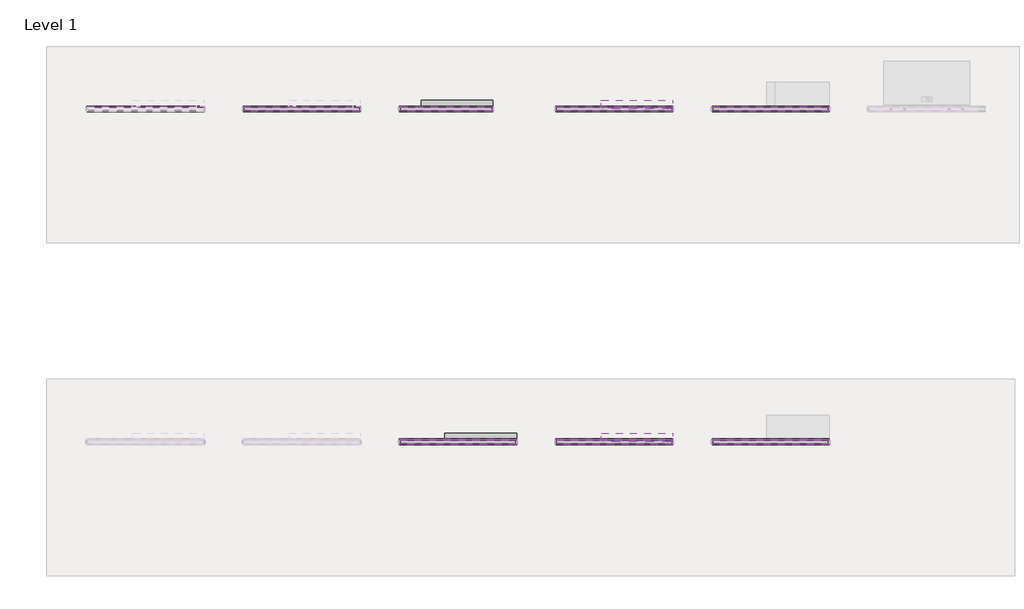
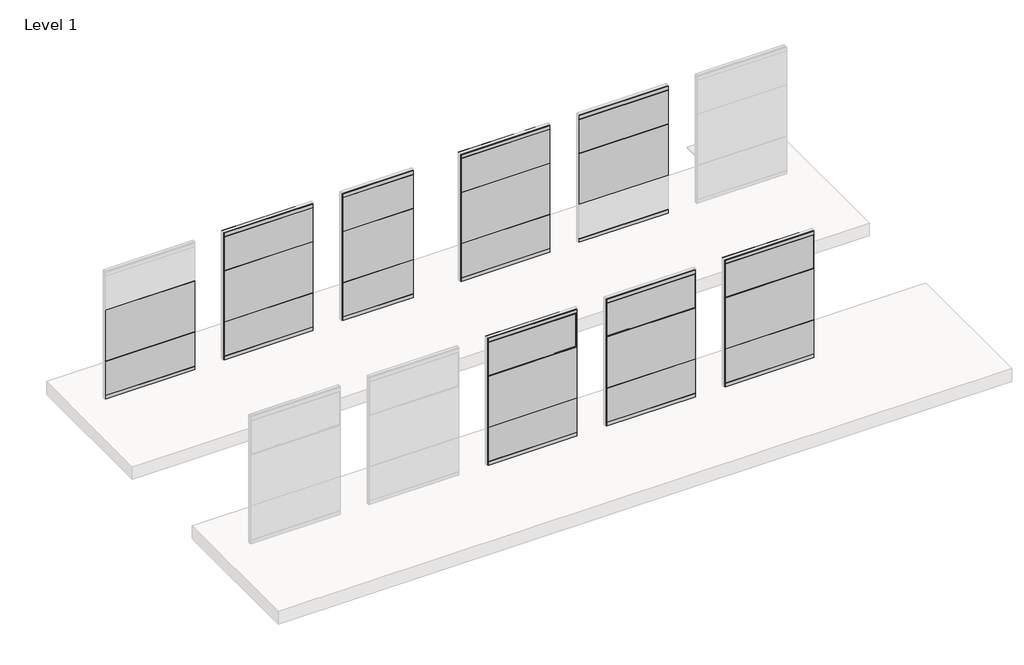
# One storey, part 8 of 13: 109 proxies, 4 furniture elements.
"""IFC4 building model written with IfcOpenShell, lengths in millimetres."""

from ifc_helpers import new_model, si_unit, origin, place, context, project, spatial, transform, mapped, element, save
from components import fascia_teknion_ceiling_and_base_ffb1_3cc7ad6c, fascia_teknion_ceiling_and_base_ffb1_00c84851, fascia_teknion_ceiling_and_base_ffb1_18eda79c, fascia_teknion_ceiling_and_base_ffb1_afe21305, frame_teknion_horizontal_rail_fkk_9ef1d2c1, frame_teknion_horizontal_rail_fkk_86cbbdfc, glass_fascia_e55c546c, level_i_0ecc00cd, level_i_4d32b42f, level_i_45b542d7, level_i_5a75796b, level_i_bottom_994d76d2, level_i_top_b0ef9d30, level_ii_5d745991, level_ii_fc3b3d38, level_ii_4f3a5f4c, level_ii_0c7391c9, level_ii_bottom_46093f10, level_iii_d1689ffa, level_iii_fe696794, level_iii_1ffc0a55, level_iii_bffd5232, aluminum_shelf_9e608764

model = new_model("IFC4")

# Units and contexts
model_context = context("Model", 3, world=origin())
ifc_project = project(units=[si_unit("LENGTHUNIT", "METRE", prefix="MILLI")], contexts=[model_context])

# Site, building, storey
site = spatial("IfcSite", under=ifc_project)
building = spatial("IfcBuilding", under=site)
storey = spatial("IfcBuildingStorey", under=building, Name="Level 1", Elevation=0.0)

# Proxies
placement = place(None, origin())
fascia_teknion_ceiling_and_base_ffb1_shape = fascia_teknion_ceiling_and_base_ffb1_3cc7ad6c(model_context)
element("IfcBuildingElementProxy", 1, Name="Fascia-Teknion-Ceiling_and_Base : FFB1", ObjectType="Fascia-Teknion-Ceiling_and_Base : FFB1", at=placement, inside=storey, context=model_context, shape_type="MappedRepresentation", body=[
    mapped(fascia_teknion_ceiling_and_base_ffb1_shape, transform((-13595.3661615, 22138.2449796, 15.875), x_axis=(1.0, 0.0, 0.0), y_axis=(0.0, 1.0, 0.0), z_axis=(0.0, 0.0, 1.0))),
])
fascia_teknion_ceiling_and_base_ffb1_2_shape = fascia_teknion_ceiling_and_base_ffb1_00c84851(model_context)
element("IfcBuildingElementProxy", 2, Name="Fascia-Teknion-Ceiling_and_Base : FFB1", ObjectType="Fascia-Teknion-Ceiling_and_Base : FFB1", at=placement, inside=storey, context=model_context, shape_type="MappedRepresentation", body=[
    mapped(fascia_teknion_ceiling_and_base_ffb1_2_shape, transform((-13595.3661615, 22076.2689796, 15.875), x_axis=(1.0, 0.0, 0.0), y_axis=(0.0, 1.0, 0.0), z_axis=(0.0, 0.0, 1.0))),
])
fascia_teknion_ceiling_and_base_ffb1_3_shape = fascia_teknion_ceiling_and_base_ffb1_18eda79c(model_context)
element("IfcBuildingElementProxy", 3, Name="Fascia-Teknion-Ceiling_and_Base : FFB1", ObjectType="Fascia-Teknion-Ceiling_and_Base : FFB1", at=placement, inside=storey, context=model_context, shape_type="MappedRepresentation", body=[
    mapped(fascia_teknion_ceiling_and_base_ffb1_3_shape, transform((-13392.1661615, 16394.5429796, 15.875), x_axis=(1.0, 0.0, 0.0), y_axis=(0.0, 1.0, 0.0), z_axis=(0.0, 0.0, 1.0))),
])
element("IfcBuildingElementProxy", 4, Name="Fascia-Teknion-Ceiling_and_Base : FFB1", ObjectType="Fascia-Teknion-Ceiling_and_Base : FFB1", at=placement, inside=storey, context=model_context, shape_type="MappedRepresentation", body=[
    mapped(fascia_teknion_ceiling_and_base_ffb1_3_shape, transform((-10725.1661615, 16394.5429796, 15.875), x_axis=(1.0, 0.0, 0.0), y_axis=(0.0, 1.0, 0.0), z_axis=(0.0, 0.0, 1.0))),
])
element("IfcBuildingElementProxy", 5, Name="Fascia-Teknion-Ceiling_and_Base : FFB1", ObjectType="Fascia-Teknion-Ceiling_and_Base : FFB1", at=placement, inside=storey, context=model_context, shape_type="MappedRepresentation", body=[
    mapped(fascia_teknion_ceiling_and_base_ffb1_3_shape, transform((-8058.1661615, 16394.5429796, 15.875), x_axis=(1.0, 0.0, 0.0), y_axis=(0.0, 1.0, 0.0), z_axis=(0.0, 0.0, 1.0))),
])
element("IfcBuildingElementProxy", 6, Name="Fascia-Teknion-Ceiling_and_Base : FFB1", ObjectType="Fascia-Teknion-Ceiling_and_Base : FFB1", at=placement, inside=storey, context=model_context, shape_type="MappedRepresentation", body=[
    mapped(fascia_teknion_ceiling_and_base_ffb1_3_shape, transform((-18726.1661615, 22076.2689796, 15.875), x_axis=(1.0, 0.0, 0.0), y_axis=(0.0, 1.0, 0.0), z_axis=(0.0, 0.0, 1.0))),
])
element("IfcBuildingElementProxy", 7, Name="Fascia-Teknion-Ceiling_and_Base : FFB1", ObjectType="Fascia-Teknion-Ceiling_and_Base : FFB1", at=placement, inside=storey, context=model_context, shape_type="MappedRepresentation", body=[
    mapped(fascia_teknion_ceiling_and_base_ffb1_3_shape, transform((-16059.1661615, 22076.2689796, 15.875), x_axis=(1.0, 0.0, 0.0), y_axis=(0.0, 1.0, 0.0), z_axis=(0.0, 0.0, 1.0))),
])
element("IfcBuildingElementProxy", 8, Name="Fascia-Teknion-Ceiling_and_Base : FFB1", ObjectType="Fascia-Teknion-Ceiling_and_Base : FFB1", at=placement, inside=storey, context=model_context, shape_type="MappedRepresentation", body=[
    mapped(fascia_teknion_ceiling_and_base_ffb1_3_shape, transform((-10725.1661615, 22076.2689796, 15.875), x_axis=(1.0, 0.0, 0.0), y_axis=(0.0, 1.0, 0.0), z_axis=(0.0, 0.0, 1.0))),
])
element("IfcBuildingElementProxy", 9, Name="Fascia-Teknion-Ceiling_and_Base : FFB1", ObjectType="Fascia-Teknion-Ceiling_and_Base : FFB1", at=placement, inside=storey, context=model_context, shape_type="MappedRepresentation", body=[
    mapped(fascia_teknion_ceiling_and_base_ffb1_3_shape, transform((-8058.1661615, 22076.2689796, 15.875), x_axis=(1.0, 0.0, 0.0), y_axis=(0.0, 1.0, 0.0), z_axis=(0.0, 0.0, 1.0))),
])
fascia_teknion_ceiling_and_base_ffb1_4_shape = fascia_teknion_ceiling_and_base_ffb1_afe21305(model_context)
element("IfcBuildingElementProxy", 10, Name="Fascia-Teknion-Ceiling_and_Base : FFB1", ObjectType="Fascia-Teknion-Ceiling_and_Base : FFB1", at=placement, inside=storey, context=model_context, shape_type="MappedRepresentation", body=[
    mapped(fascia_teknion_ceiling_and_base_ffb1_4_shape, transform((-13392.1661615, 16456.5189796, 15.875), x_axis=(1.0, 0.0, 0.0), y_axis=(0.0, 1.0, 0.0), z_axis=(0.0, 0.0, 1.0))),
])
element("IfcBuildingElementProxy", 11, Name="Fascia-Teknion-Ceiling_and_Base : FFB1", ObjectType="Fascia-Teknion-Ceiling_and_Base : FFB1", at=placement, inside=storey, context=model_context, shape_type="MappedRepresentation", body=[
    mapped(fascia_teknion_ceiling_and_base_ffb1_4_shape, transform((-10725.1661615, 16456.5189796, 15.875), x_axis=(1.0, 0.0, 0.0), y_axis=(0.0, 1.0, 0.0), z_axis=(0.0, 0.0, 1.0))),
])
element("IfcBuildingElementProxy", 12, Name="Fascia-Teknion-Ceiling_and_Base : FFB1", ObjectType="Fascia-Teknion-Ceiling_and_Base : FFB1", at=placement, inside=storey, context=model_context, shape_type="MappedRepresentation", body=[
    mapped(fascia_teknion_ceiling_and_base_ffb1_4_shape, transform((-8058.1661615, 16456.5189796, 15.875), x_axis=(1.0, 0.0, 0.0), y_axis=(0.0, 1.0, 0.0), z_axis=(0.0, 0.0, 1.0))),
])
element("IfcBuildingElementProxy", 13, Name="Fascia-Teknion-Ceiling_and_Base : FFB1", ObjectType="Fascia-Teknion-Ceiling_and_Base : FFB1", at=placement, inside=storey, context=model_context, shape_type="MappedRepresentation", body=[
    mapped(fascia_teknion_ceiling_and_base_ffb1_4_shape, transform((-18726.1661615, 22138.2449796, 15.875), x_axis=(1.0, 0.0, 0.0), y_axis=(0.0, 1.0, 0.0), z_axis=(0.0, 0.0, 1.0))),
])
element("IfcBuildingElementProxy", 14, Name="Fascia-Teknion-Ceiling_and_Base : FFB1", ObjectType="Fascia-Teknion-Ceiling_and_Base : FFB1", at=placement, inside=storey, context=model_context, shape_type="MappedRepresentation", body=[
    mapped(fascia_teknion_ceiling_and_base_ffb1_4_shape, transform((-16059.1661615, 22138.2449796, 15.875), x_axis=(1.0, 0.0, 0.0), y_axis=(0.0, 1.0, 0.0), z_axis=(0.0, 0.0, 1.0))),
])
element("IfcBuildingElementProxy", 15, Name="Fascia-Teknion-Ceiling_and_Base : FFB1", ObjectType="Fascia-Teknion-Ceiling_and_Base : FFB1", at=placement, inside=storey, context=model_context, shape_type="MappedRepresentation", body=[
    mapped(fascia_teknion_ceiling_and_base_ffb1_4_shape, transform((-10725.1661615, 22138.2449796, 15.875), x_axis=(1.0, 0.0, 0.0), y_axis=(0.0, 1.0, 0.0), z_axis=(0.0, 0.0, 1.0))),
])
element("IfcBuildingElementProxy", 16, Name="Fascia-Teknion-Ceiling_and_Base : FFB1", ObjectType="Fascia-Teknion-Ceiling_and_Base : FFB1", at=placement, inside=storey, context=model_context, shape_type="MappedRepresentation", body=[
    mapped(fascia_teknion_ceiling_and_base_ffb1_4_shape, transform((-8058.1661615, 22138.2449796, 15.875), x_axis=(1.0, 0.0, 0.0), y_axis=(0.0, 1.0, 0.0), z_axis=(0.0, 0.0, 1.0))),
])
element("IfcBuildingElementProxy", 17, Name="Fascia-Teknion-Ceiling_and_Base : FFC", ObjectType="Fascia-Teknion-Ceiling_and_Base : FFC", at=placement, inside=storey, context=model_context, shape_type="MappedRepresentation", body=[
    mapped(fascia_teknion_ceiling_and_base_ffb1_shape, transform((-13595.3661615, 22138.2449796, 2950.845), x_axis=(1.0, 0.0, 0.0), y_axis=(0.0, 1.0, 0.0), z_axis=(0.0, 0.0, 1.0))),
])
element("IfcBuildingElementProxy", 18, Name="Fascia-Teknion-Ceiling_and_Base : FFC", ObjectType="Fascia-Teknion-Ceiling_and_Base : FFC", at=placement, inside=storey, context=model_context, shape_type="MappedRepresentation", body=[
    mapped(fascia_teknion_ceiling_and_base_ffb1_2_shape, transform((-13595.3661615, 22076.2689796, 2950.845), x_axis=(1.0, 0.0, 0.0), y_axis=(0.0, 1.0, 0.0), z_axis=(0.0, 0.0, 1.0))),
])
element("IfcBuildingElementProxy", 19, Name="Fascia-Teknion-Ceiling_and_Base : FFC", ObjectType="Fascia-Teknion-Ceiling_and_Base : FFC", at=placement, inside=storey, context=model_context, shape_type="MappedRepresentation", body=[
    mapped(fascia_teknion_ceiling_and_base_ffb1_4_shape, transform((-16059.1661615, 22138.2449796, 2950.845), x_axis=(1.0, 0.0, 0.0), y_axis=(0.0, 1.0, 0.0), z_axis=(0.0, 0.0, 1.0))),
])
element("IfcBuildingElementProxy", 20, Name="Fascia-Teknion-Ceiling_and_Base : FFC", ObjectType="Fascia-Teknion-Ceiling_and_Base : FFC", at=placement, inside=storey, context=model_context, shape_type="MappedRepresentation", body=[
    mapped(fascia_teknion_ceiling_and_base_ffb1_4_shape, transform((-10725.1661615, 22138.2449796, 2950.845), x_axis=(1.0, 0.0, 0.0), y_axis=(0.0, 1.0, 0.0), z_axis=(0.0, 0.0, 1.0))),
])
element("IfcBuildingElementProxy", 21, Name="Fascia-Teknion-Ceiling_and_Base : FFC", ObjectType="Fascia-Teknion-Ceiling_and_Base : FFC", at=placement, inside=storey, context=model_context, shape_type="MappedRepresentation", body=[
    mapped(fascia_teknion_ceiling_and_base_ffb1_4_shape, transform((-8058.1661615, 22138.2449796, 2950.845), x_axis=(1.0, 0.0, 0.0), y_axis=(0.0, 1.0, 0.0), z_axis=(0.0, 0.0, 1.0))),
])
element("IfcBuildingElementProxy", 22, Name="Fascia-Teknion-Ceiling_and_Base : FFC", ObjectType="Fascia-Teknion-Ceiling_and_Base : FFC", at=placement, inside=storey, context=model_context, shape_type="MappedRepresentation", body=[
    mapped(fascia_teknion_ceiling_and_base_ffb1_4_shape, transform((-13392.1661615, 16456.5189796, 2950.845), x_axis=(1.0, 0.0, 0.0), y_axis=(0.0, 1.0, 0.0), z_axis=(0.0, 0.0, 1.0))),
])
element("IfcBuildingElementProxy", 23, Name="Fascia-Teknion-Ceiling_and_Base : FFC", ObjectType="Fascia-Teknion-Ceiling_and_Base : FFC", at=placement, inside=storey, context=model_context, shape_type="MappedRepresentation", body=[
    mapped(fascia_teknion_ceiling_and_base_ffb1_4_shape, transform((-10725.1661615, 16456.5189796, 2950.845), x_axis=(1.0, 0.0, 0.0), y_axis=(0.0, 1.0, 0.0), z_axis=(0.0, 0.0, 1.0))),
])
element("IfcBuildingElementProxy", 24, Name="Fascia-Teknion-Ceiling_and_Base : FFC", ObjectType="Fascia-Teknion-Ceiling_and_Base : FFC", at=placement, inside=storey, context=model_context, shape_type="MappedRepresentation", body=[
    mapped(fascia_teknion_ceiling_and_base_ffb1_4_shape, transform((-8058.1661615, 16456.5189796, 2950.845), x_axis=(1.0, 0.0, 0.0), y_axis=(0.0, 1.0, 0.0), z_axis=(0.0, 0.0, 1.0))),
])
element("IfcBuildingElementProxy", 25, Name="Fascia-Teknion-Ceiling_and_Base : FFC", ObjectType="Fascia-Teknion-Ceiling_and_Base : FFC", at=placement, inside=storey, context=model_context, shape_type="MappedRepresentation", body=[
    mapped(fascia_teknion_ceiling_and_base_ffb1_3_shape, transform((-16059.1661615, 22076.2689796, 2950.845), x_axis=(1.0, 0.0, 0.0), y_axis=(0.0, 1.0, 0.0), z_axis=(0.0, 0.0, 1.0))),
])
element("IfcBuildingElementProxy", 26, Name="Fascia-Teknion-Ceiling_and_Base : FFC", ObjectType="Fascia-Teknion-Ceiling_and_Base : FFC", at=placement, inside=storey, context=model_context, shape_type="MappedRepresentation", body=[
    mapped(fascia_teknion_ceiling_and_base_ffb1_3_shape, transform((-10725.1661615, 22076.2689796, 2950.845), x_axis=(1.0, 0.0, 0.0), y_axis=(0.0, 1.0, 0.0), z_axis=(0.0, 0.0, 1.0))),
])
element("IfcBuildingElementProxy", 27, Name="Fascia-Teknion-Ceiling_and_Base : FFC", ObjectType="Fascia-Teknion-Ceiling_and_Base : FFC", at=placement, inside=storey, context=model_context, shape_type="MappedRepresentation", body=[
    mapped(fascia_teknion_ceiling_and_base_ffb1_3_shape, transform((-8058.1661615, 22076.2689796, 2950.845), x_axis=(1.0, 0.0, 0.0), y_axis=(0.0, 1.0, 0.0), z_axis=(0.0, 0.0, 1.0))),
])
element("IfcBuildingElementProxy", 28, Name="Fascia-Teknion-Ceiling_and_Base : FFC", ObjectType="Fascia-Teknion-Ceiling_and_Base : FFC", at=placement, inside=storey, context=model_context, shape_type="MappedRepresentation", body=[
    mapped(fascia_teknion_ceiling_and_base_ffb1_3_shape, transform((-13392.1661615, 16394.5429796, 2950.845), x_axis=(1.0, 0.0, 0.0), y_axis=(0.0, 1.0, 0.0), z_axis=(0.0, 0.0, 1.0))),
])
element("IfcBuildingElementProxy", 29, Name="Fascia-Teknion-Ceiling_and_Base : FFC", ObjectType="Fascia-Teknion-Ceiling_and_Base : FFC", at=placement, inside=storey, context=model_context, shape_type="MappedRepresentation", body=[
    mapped(fascia_teknion_ceiling_and_base_ffb1_3_shape, transform((-10725.1661615, 16394.5429796, 2950.845), x_axis=(1.0, 0.0, 0.0), y_axis=(0.0, 1.0, 0.0), z_axis=(0.0, 0.0, 1.0))),
])
element("IfcBuildingElementProxy", 30, Name="Fascia-Teknion-Ceiling_and_Base : FFC", ObjectType="Fascia-Teknion-Ceiling_and_Base : FFC", at=placement, inside=storey, context=model_context, shape_type="MappedRepresentation", body=[
    mapped(fascia_teknion_ceiling_and_base_ffb1_3_shape, transform((-8058.1661615, 16394.5429796, 2950.845), x_axis=(1.0, 0.0, 0.0), y_axis=(0.0, 1.0, 0.0), z_axis=(0.0, 0.0, 1.0))),
])
frame_teknion_horizontal_rail_fkk_shape = frame_teknion_horizontal_rail_fkk_9ef1d2c1(model_context)
element("IfcBuildingElementProxy", 31, Name="Frame-Teknion-Horizontal_Rail : FKK", ObjectType="Frame-Teknion-Horizontal_Rail : FKK", at=placement, inside=storey, context=model_context, shape_type="MappedRepresentation", body=[
    mapped(frame_teknion_horizontal_rail_fkk_shape, transform((-13595.3661615, 22107.2569796, 100.4514438), x_axis=(1.0, 0.0, 0.0), y_axis=(0.0, 1.0, 0.0), z_axis=(0.0, 0.0, 1.0))),
])
element("IfcBuildingElementProxy", 32, Name="Frame-Teknion-Horizontal_Rail : FKK", ObjectType="Frame-Teknion-Horizontal_Rail : FKK", at=placement, inside=storey, context=model_context, shape_type="MappedRepresentation", body=[
    mapped(frame_teknion_horizontal_rail_fkk_shape, transform((-13595.3661615, 22107.2569796, 2947.5374437), x_axis=(1.0, 0.0, 0.0), y_axis=(0.0, 1.0, 0.0), z_axis=(0.0, 0.0, 1.0))),
])
frame_teknion_horizontal_rail_fkk_2_shape = frame_teknion_horizontal_rail_fkk_86cbbdfc(model_context)
element("IfcBuildingElementProxy", 33, Name="Frame-Teknion-Horizontal_Rail : FKK", ObjectType="Frame-Teknion-Horizontal_Rail : FKK", at=placement, inside=storey, context=model_context, shape_type="MappedRepresentation", body=[
    mapped(frame_teknion_horizontal_rail_fkk_2_shape, transform((-16059.1661615, 22107.2569796, 100.4514438), x_axis=(1.0, 0.0, 0.0), y_axis=(0.0, 1.0, 0.0), z_axis=(0.0, 0.0, 1.0))),
])
element("IfcBuildingElementProxy", 34, Name="Frame-Teknion-Horizontal_Rail : FKK", ObjectType="Frame-Teknion-Horizontal_Rail : FKK", at=placement, inside=storey, context=model_context, shape_type="MappedRepresentation", body=[
    mapped(frame_teknion_horizontal_rail_fkk_2_shape, transform((-16059.1661615, 22107.2569796, 2947.5374437), x_axis=(1.0, 0.0, 0.0), y_axis=(0.0, 1.0, 0.0), z_axis=(0.0, 0.0, 1.0))),
])
element("IfcBuildingElementProxy", 35, Name="Frame-Teknion-Horizontal_Rail : FKK", ObjectType="Frame-Teknion-Horizontal_Rail : FKK", at=placement, inside=storey, context=model_context, shape_type="MappedRepresentation", body=[
    mapped(frame_teknion_horizontal_rail_fkk_2_shape, transform((-10725.1661615, 22107.2569796, 100.4514438), x_axis=(1.0, 0.0, 0.0), y_axis=(0.0, 1.0, 0.0), z_axis=(0.0, 0.0, 1.0))),
])
element("IfcBuildingElementProxy", 36, Name="Frame-Teknion-Horizontal_Rail : FKK", ObjectType="Frame-Teknion-Horizontal_Rail : FKK", at=placement, inside=storey, context=model_context, shape_type="MappedRepresentation", body=[
    mapped(frame_teknion_horizontal_rail_fkk_2_shape, transform((-10725.1661615, 22107.2569796, 2947.5374437), x_axis=(1.0, 0.0, 0.0), y_axis=(0.0, 1.0, 0.0), z_axis=(0.0, 0.0, 1.0))),
])
element("IfcBuildingElementProxy", 37, Name="Frame-Teknion-Horizontal_Rail : FKK", ObjectType="Frame-Teknion-Horizontal_Rail : FKK", at=placement, inside=storey, context=model_context, shape_type="MappedRepresentation", body=[
    mapped(frame_teknion_horizontal_rail_fkk_2_shape, transform((-8058.1661615, 22107.2569796, 100.4514438), x_axis=(1.0, 0.0, 0.0), y_axis=(0.0, 1.0, 0.0), z_axis=(0.0, 0.0, 1.0))),
])
element("IfcBuildingElementProxy", 38, Name="Frame-Teknion-Horizontal_Rail : FKK", ObjectType="Frame-Teknion-Horizontal_Rail : FKK", at=placement, inside=storey, context=model_context, shape_type="MappedRepresentation", body=[
    mapped(frame_teknion_horizontal_rail_fkk_2_shape, transform((-8058.1661615, 22107.2569796, 2947.5374437), x_axis=(1.0, 0.0, 0.0), y_axis=(0.0, 1.0, 0.0), z_axis=(0.0, 0.0, 1.0))),
])
element("IfcBuildingElementProxy", 39, Name="Frame-Teknion-Horizontal_Rail : FKK", ObjectType="Frame-Teknion-Horizontal_Rail : FKK", at=placement, inside=storey, context=model_context, shape_type="MappedRepresentation", body=[
    mapped(frame_teknion_horizontal_rail_fkk_2_shape, transform((-13392.1661615, 16425.5309796, 100.4514438), x_axis=(1.0, 0.0, 0.0), y_axis=(0.0, 1.0, 0.0), z_axis=(0.0, 0.0, 1.0))),
])
element("IfcBuildingElementProxy", 40, Name="Frame-Teknion-Horizontal_Rail : FKK", ObjectType="Frame-Teknion-Horizontal_Rail : FKK", at=placement, inside=storey, context=model_context, shape_type="MappedRepresentation", body=[
    mapped(frame_teknion_horizontal_rail_fkk_2_shape, transform((-13392.1661615, 16425.5309796, 2947.5374437), x_axis=(1.0, 0.0, 0.0), y_axis=(0.0, 1.0, 0.0), z_axis=(0.0, 0.0, 1.0))),
])
element("IfcBuildingElementProxy", 41, Name="Frame-Teknion-Horizontal_Rail : FKK", ObjectType="Frame-Teknion-Horizontal_Rail : FKK", at=placement, inside=storey, context=model_context, shape_type="MappedRepresentation", body=[
    mapped(frame_teknion_horizontal_rail_fkk_2_shape, transform((-10725.1661615, 16425.5309796, 100.4514438), x_axis=(1.0, 0.0, 0.0), y_axis=(0.0, 1.0, 0.0), z_axis=(0.0, 0.0, 1.0))),
])
element("IfcBuildingElementProxy", 42, Name="Frame-Teknion-Horizontal_Rail : FKK", ObjectType="Frame-Teknion-Horizontal_Rail : FKK", at=placement, inside=storey, context=model_context, shape_type="MappedRepresentation", body=[
    mapped(frame_teknion_horizontal_rail_fkk_2_shape, transform((-10725.1661615, 16425.5309796, 2947.5374437), x_axis=(1.0, 0.0, 0.0), y_axis=(0.0, 1.0, 0.0), z_axis=(0.0, 0.0, 1.0))),
])
element("IfcBuildingElementProxy", 43, Name="Frame-Teknion-Horizontal_Rail : FKK", ObjectType="Frame-Teknion-Horizontal_Rail : FKK", at=placement, inside=storey, context=model_context, shape_type="MappedRepresentation", body=[
    mapped(frame_teknion_horizontal_rail_fkk_2_shape, transform((-8058.1661615, 16425.5309796, 100.4514438), x_axis=(1.0, 0.0, 0.0), y_axis=(0.0, 1.0, 0.0), z_axis=(0.0, 0.0, 1.0))),
])
element("IfcBuildingElementProxy", 44, Name="Frame-Teknion-Horizontal_Rail : FKK", ObjectType="Frame-Teknion-Horizontal_Rail : FKK", at=placement, inside=storey, context=model_context, shape_type="MappedRepresentation", body=[
    mapped(frame_teknion_horizontal_rail_fkk_2_shape, transform((-8058.1661615, 16425.5309796, 2947.5374437), x_axis=(1.0, 0.0, 0.0), y_axis=(0.0, 1.0, 0.0), z_axis=(0.0, 0.0, 1.0))),
])
element("IfcBuildingElementProxy", 45, Name="Frame-Teknion-Landscape_Horizontal_Rail : FLKH", ObjectType="Frame-Teknion-Landscape_Horizontal_Rail : FLKH", at=placement, inside=storey, context=model_context, shape_type="MappedRepresentation", body=[
    mapped(frame_teknion_horizontal_rail_fkk_shape, transform((-13595.3661615, 22107.2569796, 917.575), x_axis=(1.0, 0.0, 0.0), y_axis=(0.0, 1.0, 0.0), z_axis=(0.0, 0.0, 1.0))),
])
element("IfcBuildingElementProxy", 46, Name="Frame-Teknion-Landscape_Horizontal_Rail : FLKH", ObjectType="Frame-Teknion-Landscape_Horizontal_Rail : FLKH", at=placement, inside=storey, context=model_context, shape_type="MappedRepresentation", body=[
    mapped(frame_teknion_horizontal_rail_fkk_shape, transform((-13595.3661615, 22107.2569796, 2136.775), x_axis=(1.0, 0.0, 0.0), y_axis=(0.0, 1.0, 0.0), z_axis=(0.0, 0.0, 1.0))),
])
element("IfcBuildingElementProxy", 47, Name="Frame-Teknion-Landscape_Horizontal_Rail : FLKH", ObjectType="Frame-Teknion-Landscape_Horizontal_Rail : FLKH", at=placement, inside=storey, context=model_context, shape_type="MappedRepresentation", body=[
    mapped(frame_teknion_horizontal_rail_fkk_2_shape, transform((-16059.1661615, 22107.2569796, 917.575), x_axis=(1.0, 0.0, 0.0), y_axis=(0.0, 1.0, 0.0), z_axis=(0.0, 0.0, 1.0))),
])
element("IfcBuildingElementProxy", 48, Name="Frame-Teknion-Landscape_Horizontal_Rail : FLKH", ObjectType="Frame-Teknion-Landscape_Horizontal_Rail : FLKH", at=placement, inside=storey, context=model_context, shape_type="MappedRepresentation", body=[
    mapped(frame_teknion_horizontal_rail_fkk_2_shape, transform((-16059.1661615, 22107.2569796, 2136.775), x_axis=(1.0, 0.0, 0.0), y_axis=(0.0, 1.0, 0.0), z_axis=(0.0, 0.0, 1.0))),
])
element("IfcBuildingElementProxy", 49, Name="Frame-Teknion-Landscape_Horizontal_Rail : FLKH", ObjectType="Frame-Teknion-Landscape_Horizontal_Rail : FLKH", at=placement, inside=storey, context=model_context, shape_type="MappedRepresentation", body=[
    mapped(frame_teknion_horizontal_rail_fkk_2_shape, transform((-10725.1661615, 22107.2569796, 917.575), x_axis=(1.0, 0.0, 0.0), y_axis=(0.0, 1.0, 0.0), z_axis=(0.0, 0.0, 1.0))),
])
element("IfcBuildingElementProxy", 50, Name="Frame-Teknion-Landscape_Horizontal_Rail : FLKH", ObjectType="Frame-Teknion-Landscape_Horizontal_Rail : FLKH", at=placement, inside=storey, context=model_context, shape_type="MappedRepresentation", body=[
    mapped(frame_teknion_horizontal_rail_fkk_2_shape, transform((-10725.1661615, 22107.2569796, 2136.775), x_axis=(1.0, 0.0, 0.0), y_axis=(0.0, 1.0, 0.0), z_axis=(0.0, 0.0, 1.0))),
])
element("IfcBuildingElementProxy", 51, Name="Frame-Teknion-Landscape_Horizontal_Rail : FLKH", ObjectType="Frame-Teknion-Landscape_Horizontal_Rail : FLKH", at=placement, inside=storey, context=model_context, shape_type="MappedRepresentation", body=[
    mapped(frame_teknion_horizontal_rail_fkk_2_shape, transform((-10725.1661615, 22107.2569796, 1527.175), x_axis=(1.0, 0.0, 0.0), y_axis=(0.0, 1.0, 0.0), z_axis=(0.0, 0.0, 1.0))),
])
element("IfcBuildingElementProxy", 52, Name="Frame-Teknion-Landscape_Horizontal_Rail : FLKH", ObjectType="Frame-Teknion-Landscape_Horizontal_Rail : FLKH", at=placement, inside=storey, context=model_context, shape_type="MappedRepresentation", body=[
    mapped(frame_teknion_horizontal_rail_fkk_2_shape, transform((-8058.1661615, 22107.2569796, 917.575), x_axis=(1.0, 0.0, 0.0), y_axis=(0.0, 1.0, 0.0), z_axis=(0.0, 0.0, 1.0))),
])
element("IfcBuildingElementProxy", 53, Name="Frame-Teknion-Landscape_Horizontal_Rail : FLKH", ObjectType="Frame-Teknion-Landscape_Horizontal_Rail : FLKH", at=placement, inside=storey, context=model_context, shape_type="MappedRepresentation", body=[
    mapped(frame_teknion_horizontal_rail_fkk_2_shape, transform((-8058.1661615, 22107.2569796, 2136.775), x_axis=(1.0, 0.0, 0.0), y_axis=(0.0, 1.0, 0.0), z_axis=(0.0, 0.0, 1.0))),
])
element("IfcBuildingElementProxy", 54, Name="Frame-Teknion-Landscape_Horizontal_Rail : FLKH", ObjectType="Frame-Teknion-Landscape_Horizontal_Rail : FLKH", at=placement, inside=storey, context=model_context, shape_type="MappedRepresentation", body=[
    mapped(frame_teknion_horizontal_rail_fkk_2_shape, transform((-8058.1661615, 22107.2569796, 536.575), x_axis=(1.0, 0.0, 0.0), y_axis=(0.0, 1.0, 0.0), z_axis=(0.0, 0.0, 1.0))),
])
element("IfcBuildingElementProxy", 55, Name="Frame-Teknion-Landscape_Horizontal_Rail : FLKH", ObjectType="Frame-Teknion-Landscape_Horizontal_Rail : FLKH", at=placement, inside=storey, context=model_context, shape_type="MappedRepresentation", body=[
    mapped(frame_teknion_horizontal_rail_fkk_2_shape, transform((-13392.1661615, 16425.5309796, 917.575), x_axis=(1.0, 0.0, 0.0), y_axis=(0.0, 1.0, 0.0), z_axis=(0.0, 0.0, 1.0))),
])
element("IfcBuildingElementProxy", 56, Name="Frame-Teknion-Landscape_Horizontal_Rail : FLKH", ObjectType="Frame-Teknion-Landscape_Horizontal_Rail : FLKH", at=placement, inside=storey, context=model_context, shape_type="MappedRepresentation", body=[
    mapped(frame_teknion_horizontal_rail_fkk_2_shape, transform((-13392.1661615, 16425.5309796, 2136.775), x_axis=(1.0, 0.0, 0.0), y_axis=(0.0, 1.0, 0.0), z_axis=(0.0, 0.0, 1.0))),
])
element("IfcBuildingElementProxy", 57, Name="Frame-Teknion-Landscape_Horizontal_Rail : FLKH", ObjectType="Frame-Teknion-Landscape_Horizontal_Rail : FLKH", at=placement, inside=storey, context=model_context, shape_type="MappedRepresentation", body=[
    mapped(frame_teknion_horizontal_rail_fkk_2_shape, transform((-10725.1661615, 16425.5309796, 917.575), x_axis=(1.0, 0.0, 0.0), y_axis=(0.0, 1.0, 0.0), z_axis=(0.0, 0.0, 1.0))),
])
element("IfcBuildingElementProxy", 58, Name="Frame-Teknion-Landscape_Horizontal_Rail : FLKH", ObjectType="Frame-Teknion-Landscape_Horizontal_Rail : FLKH", at=placement, inside=storey, context=model_context, shape_type="MappedRepresentation", body=[
    mapped(frame_teknion_horizontal_rail_fkk_2_shape, transform((-10725.1661615, 16425.5309796, 2136.775), x_axis=(1.0, 0.0, 0.0), y_axis=(0.0, 1.0, 0.0), z_axis=(0.0, 0.0, 1.0))),
])
element("IfcBuildingElementProxy", 59, Name="Frame-Teknion-Landscape_Horizontal_Rail : FLKH", ObjectType="Frame-Teknion-Landscape_Horizontal_Rail : FLKH", at=placement, inside=storey, context=model_context, shape_type="MappedRepresentation", body=[
    mapped(frame_teknion_horizontal_rail_fkk_2_shape, transform((-8058.1661615, 16425.5309796, 917.575), x_axis=(1.0, 0.0, 0.0), y_axis=(0.0, 1.0, 0.0), z_axis=(0.0, 0.0, 1.0))),
])
element("IfcBuildingElementProxy", 60, Name="Frame-Teknion-Landscape_Horizontal_Rail : FLKH", ObjectType="Frame-Teknion-Landscape_Horizontal_Rail : FLKH", at=placement, inside=storey, context=model_context, shape_type="MappedRepresentation", body=[
    mapped(frame_teknion_horizontal_rail_fkk_2_shape, transform((-8058.1661615, 16425.5309796, 2136.775), x_axis=(1.0, 0.0, 0.0), y_axis=(0.0, 1.0, 0.0), z_axis=(0.0, 0.0, 1.0))),
])
element("IfcBuildingElementProxy", 61, Name="Frame-Teknion-Landscape_Horizontal_Rail : FLKH", ObjectType="Frame-Teknion-Landscape_Horizontal_Rail : FLKH", at=placement, inside=storey, context=model_context, shape_type="MappedRepresentation", body=[
    mapped(frame_teknion_horizontal_rail_fkk_2_shape, transform((-8058.1661615, 16425.5309796, 536.575), x_axis=(1.0, 0.0, 0.0), y_axis=(0.0, 1.0, 0.0), z_axis=(0.0, 0.0, 1.0))),
])
element("IfcBuildingElementProxy", 62, Name="Frame-Teknion-Landscape_Horizontal_Rail : FLKH", ObjectType="Frame-Teknion-Landscape_Horizontal_Rail : FLKH", at=placement, inside=storey, context=model_context, shape_type="MappedRepresentation", body=[
    mapped(frame_teknion_horizontal_rail_fkk_2_shape, transform((-10725.1661615, 16425.5309796, 1527.175), x_axis=(1.0, 0.0, 0.0), y_axis=(0.0, 1.0, 0.0), z_axis=(0.0, 0.0, 1.0))),
])
glass_fascia_shape = glass_fascia_e55c546c(model_context)
element("IfcBuildingElementProxy", 63, Name="Panel-Fascia-Teknion-Altos-Glass : Glass Fascia", ObjectType="Panel-Fascia-Teknion-Altos-Glass : Glass Fascia", at=placement, inside=storey, context=model_context, shape_type="MappedRepresentation", body=[
    mapped(glass_fascia_shape, transform((-13392.1661615, 16425.548839, 2136.775), x_axis=(1.0, 0.0, 0.0), y_axis=(0.0, 1.0, 0.0), z_axis=(0.0, 0.0, 1.0))),
])
element("IfcBuildingElementProxy", 64, Name="Panel-Fascia-Teknion-Altos-Glass : Glass Fascia", ObjectType="Panel-Fascia-Teknion-Altos-Glass : Glass Fascia", at=placement, inside=storey, context=model_context, shape_type="MappedRepresentation", body=[
    mapped(glass_fascia_shape, transform((-10725.1661615, 16425.548839, 2136.775), x_axis=(1.0, 0.0, 0.0), y_axis=(0.0, 1.0, 0.0), z_axis=(0.0, 0.0, 1.0))),
])
element("IfcBuildingElementProxy", 65, Name="Panel-Fascia-Teknion-Altos-Glass : Glass Fascia", ObjectType="Panel-Fascia-Teknion-Altos-Glass : Glass Fascia", at=placement, inside=storey, context=model_context, shape_type="MappedRepresentation", body=[
    mapped(glass_fascia_shape, transform((-8058.1661615, 16425.548839, 2136.775), x_axis=(1.0, 0.0, 0.0), y_axis=(0.0, 1.0, 0.0), z_axis=(0.0, 0.0, 1.0))),
])
level_i_shape = level_i_0ecc00cd(model_context)
element("IfcBuildingElementProxy", 66, Name="Panel-Fascia-Teknion-Altos-Landscape : Level I", ObjectType="Panel-Fascia-Teknion-Altos-Landscape : Level I", at=placement, inside=storey, context=model_context, shape_type="MappedRepresentation", body=[
    mapped(level_i_shape, transform((-13595.3661615, 22147.7699796, 100.457), x_axis=(1.0, 0.0, 0.0), y_axis=(0.0, 1.0, 0.0), z_axis=(0.0, 0.0, 1.0))),
])
level_i_2_shape = level_i_4d32b42f(model_context)
element("IfcBuildingElementProxy", 67, Name="Panel-Fascia-Teknion-Altos-Landscape : Level I", ObjectType="Panel-Fascia-Teknion-Altos-Landscape : Level I", at=placement, inside=storey, context=model_context, shape_type="MappedRepresentation", body=[
    mapped(level_i_2_shape, transform((-13595.3661615, 22066.7439796, 100.457), x_axis=(1.0, 0.0, 0.0), y_axis=(0.0, 1.0, 0.0), z_axis=(0.0, 0.0, 1.0))),
])
level_i_3_shape = level_i_45b542d7(model_context)
element("IfcBuildingElementProxy", 68, Name="Panel-Fascia-Teknion-Altos-Landscape : Level I", ObjectType="Panel-Fascia-Teknion-Altos-Landscape : Level I", at=placement, inside=storey, context=model_context, shape_type="MappedRepresentation", body=[
    mapped(level_i_3_shape, transform((-18726.1661615, 22147.7699796, 100.457), x_axis=(1.0, 0.0, 0.0), y_axis=(0.0, 1.0, 0.0), z_axis=(0.0, 0.0, 1.0))),
])
element("IfcBuildingElementProxy", 69, Name="Panel-Fascia-Teknion-Altos-Landscape : Level I", ObjectType="Panel-Fascia-Teknion-Altos-Landscape : Level I", at=placement, inside=storey, context=model_context, shape_type="MappedRepresentation", body=[
    mapped(level_i_3_shape, transform((-16059.1661615, 22147.7699796, 100.457), x_axis=(1.0, 0.0, 0.0), y_axis=(0.0, 1.0, 0.0), z_axis=(0.0, 0.0, 1.0))),
])
element("IfcBuildingElementProxy", 70, Name="Panel-Fascia-Teknion-Altos-Landscape : Level I", ObjectType="Panel-Fascia-Teknion-Altos-Landscape : Level I", at=placement, inside=storey, context=model_context, shape_type="MappedRepresentation", body=[
    mapped(level_i_3_shape, transform((-10725.1661615, 22147.7699796, 100.457), x_axis=(1.0, 0.0, 0.0), y_axis=(0.0, 1.0, 0.0), z_axis=(0.0, 0.0, 1.0))),
])
element("IfcBuildingElementProxy", 71, Name="Panel-Fascia-Teknion-Altos-Landscape : Level I", ObjectType="Panel-Fascia-Teknion-Altos-Landscape : Level I", at=placement, inside=storey, context=model_context, shape_type="MappedRepresentation", body=[
    mapped(level_i_3_shape, transform((-13392.1661615, 16466.0439796, 100.457), x_axis=(1.0, 0.0, 0.0), y_axis=(0.0, 1.0, 0.0), z_axis=(0.0, 0.0, 1.0))),
])
element("IfcBuildingElementProxy", 72, Name="Panel-Fascia-Teknion-Altos-Landscape : Level I", ObjectType="Panel-Fascia-Teknion-Altos-Landscape : Level I", at=placement, inside=storey, context=model_context, shape_type="MappedRepresentation", body=[
    mapped(level_i_3_shape, transform((-10725.1661615, 16466.0439796, 100.457), x_axis=(1.0, 0.0, 0.0), y_axis=(0.0, 1.0, 0.0), z_axis=(0.0, 0.0, 1.0))),
])
level_i_4_shape = level_i_5a75796b(model_context)
element("IfcBuildingElementProxy", 73, Name="Panel-Fascia-Teknion-Altos-Landscape : Level I", ObjectType="Panel-Fascia-Teknion-Altos-Landscape : Level I", at=placement, inside=storey, context=model_context, shape_type="MappedRepresentation", body=[
    mapped(level_i_4_shape, transform((-18726.1661615, 22066.7439796, 100.457), x_axis=(1.0, 0.0, 0.0), y_axis=(0.0, 1.0, 0.0), z_axis=(0.0, 0.0, 1.0))),
])
element("IfcBuildingElementProxy", 74, Name="Panel-Fascia-Teknion-Altos-Landscape : Level I", ObjectType="Panel-Fascia-Teknion-Altos-Landscape : Level I", at=placement, inside=storey, context=model_context, shape_type="MappedRepresentation", body=[
    mapped(level_i_4_shape, transform((-16059.1661615, 22066.7439796, 100.457), x_axis=(1.0, 0.0, 0.0), y_axis=(0.0, 1.0, 0.0), z_axis=(0.0, 0.0, 1.0))),
])
element("IfcBuildingElementProxy", 75, Name="Panel-Fascia-Teknion-Altos-Landscape : Level I", ObjectType="Panel-Fascia-Teknion-Altos-Landscape : Level I", at=placement, inside=storey, context=model_context, shape_type="MappedRepresentation", body=[
    mapped(level_i_4_shape, transform((-10725.1661615, 22066.7439796, 100.457), x_axis=(1.0, 0.0, 0.0), y_axis=(0.0, 1.0, 0.0), z_axis=(0.0, 0.0, 1.0))),
])
element("IfcBuildingElementProxy", 76, Name="Panel-Fascia-Teknion-Altos-Landscape : Level I", ObjectType="Panel-Fascia-Teknion-Altos-Landscape : Level I", at=placement, inside=storey, context=model_context, shape_type="MappedRepresentation", body=[
    mapped(level_i_4_shape, transform((-13392.1661615, 16385.0179796, 100.457), x_axis=(1.0, 0.0, 0.0), y_axis=(0.0, 1.0, 0.0), z_axis=(0.0, 0.0, 1.0))),
])
element("IfcBuildingElementProxy", 77, Name="Panel-Fascia-Teknion-Altos-Landscape : Level I", ObjectType="Panel-Fascia-Teknion-Altos-Landscape : Level I", at=placement, inside=storey, context=model_context, shape_type="MappedRepresentation", body=[
    mapped(level_i_4_shape, transform((-10725.1661615, 16385.0179796, 100.457), x_axis=(1.0, 0.0, 0.0), y_axis=(0.0, 1.0, 0.0), z_axis=(0.0, 0.0, 1.0))),
])
element("IfcBuildingElementProxy", 78, Name="Panel-Fascia-Teknion-Altos-Landscape : Level I", ObjectType="Panel-Fascia-Teknion-Altos-Landscape : Level I", at=placement, inside=storey, context=model_context, shape_type="MappedRepresentation", body=[
    mapped(level_i_4_shape, transform((-8058.1661615, 16385.0179796, 100.457), x_axis=(1.0, 0.0, 0.0), y_axis=(0.0, 1.0, 0.0), z_axis=(0.0, 0.0, 1.0))),
])
level_i_bottom_shape = level_i_bottom_994d76d2(model_context)
element("IfcBuildingElementProxy", 79, Name="Panel-Fascia-Teknion-Altos-Landscape : Level I Bottom", ObjectType="Panel-Fascia-Teknion-Altos-Landscape : Level I Bottom", at=placement, inside=storey, context=model_context, shape_type="MappedRepresentation", body=[
    mapped(level_i_bottom_shape, transform((-8058.1661615, 16466.0439796, 100.457), x_axis=(1.0, 0.0, 0.0), y_axis=(0.0, 1.0, 0.0), z_axis=(0.0, 0.0, 1.0))),
])
element("IfcBuildingElementProxy", 80, Name="Panel-Fascia-Teknion-Altos-Landscape : Level I Bottom", ObjectType="Panel-Fascia-Teknion-Altos-Landscape : Level I Bottom", at=placement, inside=storey, context=model_context, shape_type="MappedRepresentation", body=[
    mapped(level_i_bottom_shape, transform((-8058.1661615, 22147.7699796, 100.457), x_axis=(1.0, 0.0, 0.0), y_axis=(0.0, 1.0, 0.0), z_axis=(0.0, 0.0, 1.0))),
])
level_i_top_shape = level_i_top_b0ef9d30(model_context)
element("IfcBuildingElementProxy", 81, Name="Panel-Fascia-Teknion-Altos-Landscape : Level I Top", ObjectType="Panel-Fascia-Teknion-Altos-Landscape : Level I Top", at=placement, inside=storey, context=model_context, shape_type="MappedRepresentation", body=[
    mapped(level_i_top_shape, transform((-8058.1661615, 16466.0439796, 536.575), x_axis=(1.0, 0.0, 0.0), y_axis=(0.0, 1.0, 0.0), z_axis=(0.0, 0.0, 1.0))),
])
element("IfcBuildingElementProxy", 82, Name="Panel-Fascia-Teknion-Altos-Landscape : Level I Top", ObjectType="Panel-Fascia-Teknion-Altos-Landscape : Level I Top", at=placement, inside=storey, context=model_context, shape_type="MappedRepresentation", body=[
    mapped(level_i_top_shape, transform((-8058.1661615, 22147.7699796, 536.575), x_axis=(1.0, 0.0, 0.0), y_axis=(0.0, 1.0, 0.0), z_axis=(0.0, 0.0, 1.0))),
])
level_ii_shape = level_ii_5d745991(model_context)
element("IfcBuildingElementProxy", 83, Name="Panel-Fascia-Teknion-Altos-Landscape : Level II", ObjectType="Panel-Fascia-Teknion-Altos-Landscape : Level II", at=placement, inside=storey, context=model_context, shape_type="MappedRepresentation", body=[
    mapped(level_ii_shape, transform((-13595.3661615, 22147.7699796, 917.575), x_axis=(1.0, 0.0, 0.0), y_axis=(0.0, 1.0, 0.0), z_axis=(0.0, 0.0, 1.0))),
])
level_ii_2_shape = level_ii_fc3b3d38(model_context)
element("IfcBuildingElementProxy", 84, Name="Panel-Fascia-Teknion-Altos-Landscape : Level II", ObjectType="Panel-Fascia-Teknion-Altos-Landscape : Level II", at=placement, inside=storey, context=model_context, shape_type="MappedRepresentation", body=[
    mapped(level_ii_2_shape, transform((-13595.3661615, 22066.7439796, 917.575), x_axis=(1.0, 0.0, 0.0), y_axis=(0.0, 1.0, 0.0), z_axis=(0.0, 0.0, 1.0))),
])
level_ii_3_shape = level_ii_4f3a5f4c(model_context)
element("IfcBuildingElementProxy", 85, Name="Panel-Fascia-Teknion-Altos-Landscape : Level II", ObjectType="Panel-Fascia-Teknion-Altos-Landscape : Level II", at=placement, inside=storey, context=model_context, shape_type="MappedRepresentation", body=[
    mapped(level_ii_3_shape, transform((-13392.1661615, 16385.0179796, 917.575), x_axis=(1.0, 0.0, 0.0), y_axis=(0.0, 1.0, 0.0), z_axis=(0.0, 0.0, 1.0))),
])
element("IfcBuildingElementProxy", 86, Name="Panel-Fascia-Teknion-Altos-Landscape : Level II", ObjectType="Panel-Fascia-Teknion-Altos-Landscape : Level II", at=placement, inside=storey, context=model_context, shape_type="MappedRepresentation", body=[
    mapped(level_ii_3_shape, transform((-10725.1661615, 16385.0179796, 917.575), x_axis=(1.0, 0.0, 0.0), y_axis=(0.0, 1.0, 0.0), z_axis=(0.0, 0.0, 1.0))),
])
element("IfcBuildingElementProxy", 87, Name="Panel-Fascia-Teknion-Altos-Landscape : Level II", ObjectType="Panel-Fascia-Teknion-Altos-Landscape : Level II", at=placement, inside=storey, context=model_context, shape_type="MappedRepresentation", body=[
    mapped(level_ii_3_shape, transform((-10725.1661615, 22066.7439796, 917.575), x_axis=(1.0, 0.0, 0.0), y_axis=(0.0, 1.0, 0.0), z_axis=(0.0, 0.0, 1.0))),
])
element("IfcBuildingElementProxy", 88, Name="Panel-Fascia-Teknion-Altos-Landscape : Level II", ObjectType="Panel-Fascia-Teknion-Altos-Landscape : Level II", at=placement, inside=storey, context=model_context, shape_type="MappedRepresentation", body=[
    mapped(level_ii_3_shape, transform((-8058.1661615, 16385.0179796, 917.575), x_axis=(1.0, 0.0, 0.0), y_axis=(0.0, 1.0, 0.0), z_axis=(0.0, 0.0, 1.0))),
])
element("IfcBuildingElementProxy", 89, Name="Panel-Fascia-Teknion-Altos-Landscape : Level II", ObjectType="Panel-Fascia-Teknion-Altos-Landscape : Level II", at=placement, inside=storey, context=model_context, shape_type="MappedRepresentation", body=[
    mapped(level_ii_3_shape, transform((-16059.1661615, 22066.7439796, 917.575), x_axis=(1.0, 0.0, 0.0), y_axis=(0.0, 1.0, 0.0), z_axis=(0.0, 0.0, 1.0))),
])
element("IfcBuildingElementProxy", 90, Name="Panel-Fascia-Teknion-Altos-Landscape : Level II", ObjectType="Panel-Fascia-Teknion-Altos-Landscape : Level II", at=placement, inside=storey, context=model_context, shape_type="MappedRepresentation", body=[
    mapped(level_ii_3_shape, transform((-8058.1661615, 22066.7439796, 917.575), x_axis=(1.0, 0.0, 0.0), y_axis=(0.0, 1.0, 0.0), z_axis=(0.0, 0.0, 1.0))),
])
element("IfcBuildingElementProxy", 91, Name="Panel-Fascia-Teknion-Altos-Landscape : Level II", ObjectType="Panel-Fascia-Teknion-Altos-Landscape : Level II", at=placement, inside=storey, context=model_context, shape_type="MappedRepresentation", body=[
    mapped(level_ii_3_shape, transform((-18726.1661615, 22066.7439796, 917.575), x_axis=(1.0, 0.0, 0.0), y_axis=(0.0, 1.0, 0.0), z_axis=(0.0, 0.0, 1.0))),
])
level_ii_4_shape = level_ii_0c7391c9(model_context)
element("IfcBuildingElementProxy", 92, Name="Panel-Fascia-Teknion-Altos-Landscape : Level II", ObjectType="Panel-Fascia-Teknion-Altos-Landscape : Level II", at=placement, inside=storey, context=model_context, shape_type="MappedRepresentation", body=[
    mapped(level_ii_4_shape, transform((-13392.1661615, 16466.0439796, 917.575), x_axis=(1.0, 0.0, 0.0), y_axis=(0.0, 1.0, 0.0), z_axis=(0.0, 0.0, 1.0))),
])
element("IfcBuildingElementProxy", 93, Name="Panel-Fascia-Teknion-Altos-Landscape : Level II", ObjectType="Panel-Fascia-Teknion-Altos-Landscape : Level II", at=placement, inside=storey, context=model_context, shape_type="MappedRepresentation", body=[
    mapped(level_ii_4_shape, transform((-8058.1661615, 16466.0439796, 917.575), x_axis=(1.0, 0.0, 0.0), y_axis=(0.0, 1.0, 0.0), z_axis=(0.0, 0.0, 1.0))),
])
element("IfcBuildingElementProxy", 94, Name="Panel-Fascia-Teknion-Altos-Landscape : Level II", ObjectType="Panel-Fascia-Teknion-Altos-Landscape : Level II", at=placement, inside=storey, context=model_context, shape_type="MappedRepresentation", body=[
    mapped(level_ii_4_shape, transform((-16059.1661615, 22147.7699796, 917.575), x_axis=(1.0, 0.0, 0.0), y_axis=(0.0, 1.0, 0.0), z_axis=(0.0, 0.0, 1.0))),
])
element("IfcBuildingElementProxy", 95, Name="Panel-Fascia-Teknion-Altos-Landscape : Level II", ObjectType="Panel-Fascia-Teknion-Altos-Landscape : Level II", at=placement, inside=storey, context=model_context, shape_type="MappedRepresentation", body=[
    mapped(level_ii_4_shape, transform((-8058.1661615, 22147.7699796, 917.575), x_axis=(1.0, 0.0, 0.0), y_axis=(0.0, 1.0, 0.0), z_axis=(0.0, 0.0, 1.0))),
])
level_ii_bottom_shape = level_ii_bottom_46093f10(model_context)
element("IfcBuildingElementProxy", 96, Name="Panel-Fascia-Teknion-Altos-Landscape : Level II Bottom", ObjectType="Panel-Fascia-Teknion-Altos-Landscape : Level II Bottom", at=placement, inside=storey, context=model_context, shape_type="MappedRepresentation", body=[
    mapped(level_ii_bottom_shape, transform((-18726.1661615, 22147.7699796, 917.575), x_axis=(1.0, 0.0, 0.0), y_axis=(0.0, 1.0, 0.0), z_axis=(0.0, 0.0, 1.0))),
])
element("IfcBuildingElementProxy", 97, Name="Panel-Fascia-Teknion-Altos-Landscape : Level II Bottom", ObjectType="Panel-Fascia-Teknion-Altos-Landscape : Level II Bottom", at=placement, inside=storey, context=model_context, shape_type="MappedRepresentation", body=[
    mapped(level_ii_bottom_shape, transform((-10725.1661615, 22147.7699796, 917.575), x_axis=(1.0, 0.0, 0.0), y_axis=(0.0, 1.0, 0.0), z_axis=(0.0, 0.0, 1.0))),
])
element("IfcBuildingElementProxy", 98, Name="Panel-Fascia-Teknion-Altos-Landscape : Level II Bottom", ObjectType="Panel-Fascia-Teknion-Altos-Landscape : Level II Bottom", at=placement, inside=storey, context=model_context, shape_type="MappedRepresentation", body=[
    mapped(level_ii_bottom_shape, transform((-10725.1661615, 16466.0439796, 917.575), x_axis=(1.0, 0.0, 0.0), y_axis=(0.0, 1.0, 0.0), z_axis=(0.0, 0.0, 1.0))),
])
element("IfcBuildingElementProxy", 99, Name="Panel-Fascia-Teknion-Altos-Landscape : Level II Top", ObjectType="Panel-Fascia-Teknion-Altos-Landscape : Level II Top", at=placement, inside=storey, context=model_context, shape_type="MappedRepresentation", body=[
    mapped(level_ii_bottom_shape, transform((-18726.1661615, 22147.7699796, 1527.175), x_axis=(1.0, 0.0, 0.0), y_axis=(0.0, 1.0, 0.0), z_axis=(0.0, 0.0, 1.0))),
])
element("IfcBuildingElementProxy", 100, Name="Panel-Fascia-Teknion-Altos-Landscape : Level II Top", ObjectType="Panel-Fascia-Teknion-Altos-Landscape : Level II Top", at=placement, inside=storey, context=model_context, shape_type="MappedRepresentation", body=[
    mapped(level_ii_bottom_shape, transform((-10725.1661615, 22147.7699796, 1527.175), x_axis=(1.0, 0.0, 0.0), y_axis=(0.0, 1.0, 0.0), z_axis=(0.0, 0.0, 1.0))),
])
element("IfcBuildingElementProxy", 101, Name="Panel-Fascia-Teknion-Altos-Landscape : Level II Top", ObjectType="Panel-Fascia-Teknion-Altos-Landscape : Level II Top", at=placement, inside=storey, context=model_context, shape_type="MappedRepresentation", body=[
    mapped(level_ii_bottom_shape, transform((-10725.1661615, 16466.0439796, 1527.175), x_axis=(1.0, 0.0, 0.0), y_axis=(0.0, 1.0, 0.0), z_axis=(0.0, 0.0, 1.0))),
])
level_iii_shape = level_iii_d1689ffa(model_context)
element("IfcBuildingElementProxy", 102, Name="Panel-Fascia-Teknion-Altos-Landscape : Level III", ObjectType="Panel-Fascia-Teknion-Altos-Landscape : Level III", at=placement, inside=storey, context=model_context, shape_type="MappedRepresentation", body=[
    mapped(level_iii_shape, transform((-13595.3661615, 22147.7699796, 2136.775), x_axis=(1.0, 0.0, 0.0), y_axis=(0.0, 1.0, 0.0), z_axis=(0.0, 0.0, 1.0))),
])
level_iii_2_shape = level_iii_fe696794(model_context)
element("IfcBuildingElementProxy", 103, Name="Panel-Fascia-Teknion-Altos-Landscape : Level III", ObjectType="Panel-Fascia-Teknion-Altos-Landscape : Level III", at=placement, inside=storey, context=model_context, shape_type="MappedRepresentation", body=[
    mapped(level_iii_2_shape, transform((-13595.3661615, 22066.7439796, 2136.775), x_axis=(1.0, 0.0, 0.0), y_axis=(0.0, 1.0, 0.0), z_axis=(0.0, 0.0, 1.0))),
])
level_iii_3_shape = level_iii_1ffc0a55(model_context)
element("IfcBuildingElementProxy", 104, Name="Panel-Fascia-Teknion-Altos-Landscape : Level III", ObjectType="Panel-Fascia-Teknion-Altos-Landscape : Level III", at=placement, inside=storey, context=model_context, shape_type="MappedRepresentation", body=[
    mapped(level_iii_3_shape, transform((-16059.1661615, 22147.7699796, 2136.775), x_axis=(1.0, 0.0, 0.0), y_axis=(0.0, 1.0, 0.0), z_axis=(0.0, 0.0, 1.0))),
])
element("IfcBuildingElementProxy", 105, Name="Panel-Fascia-Teknion-Altos-Landscape : Level III", ObjectType="Panel-Fascia-Teknion-Altos-Landscape : Level III", at=placement, inside=storey, context=model_context, shape_type="MappedRepresentation", body=[
    mapped(level_iii_3_shape, transform((-10725.1661615, 22147.7699796, 2136.775), x_axis=(1.0, 0.0, 0.0), y_axis=(0.0, 1.0, 0.0), z_axis=(0.0, 0.0, 1.0))),
])
element("IfcBuildingElementProxy", 106, Name="Panel-Fascia-Teknion-Altos-Landscape : Level III", ObjectType="Panel-Fascia-Teknion-Altos-Landscape : Level III", at=placement, inside=storey, context=model_context, shape_type="MappedRepresentation", body=[
    mapped(level_iii_3_shape, transform((-8058.1661615, 22147.7699796, 2136.775), x_axis=(1.0, 0.0, 0.0), y_axis=(0.0, 1.0, 0.0), z_axis=(0.0, 0.0, 1.0))),
])
level_iii_4_shape = level_iii_bffd5232(model_context)
element("IfcBuildingElementProxy", 107, Name="Panel-Fascia-Teknion-Altos-Landscape : Level III", ObjectType="Panel-Fascia-Teknion-Altos-Landscape : Level III", at=placement, inside=storey, context=model_context, shape_type="MappedRepresentation", body=[
    mapped(level_iii_4_shape, transform((-16059.1661615, 22066.7439796, 2136.775), x_axis=(1.0, 0.0, 0.0), y_axis=(0.0, 1.0, 0.0), z_axis=(0.0, 0.0, 1.0))),
])
element("IfcBuildingElementProxy", 108, Name="Panel-Fascia-Teknion-Altos-Landscape : Level III", ObjectType="Panel-Fascia-Teknion-Altos-Landscape : Level III", at=placement, inside=storey, context=model_context, shape_type="MappedRepresentation", body=[
    mapped(level_iii_4_shape, transform((-10725.1661615, 22066.7439796, 2136.775), x_axis=(1.0, 0.0, 0.0), y_axis=(0.0, 1.0, 0.0), z_axis=(0.0, 0.0, 1.0))),
])
element("IfcBuildingElementProxy", 109, Name="Panel-Fascia-Teknion-Altos-Landscape : Level III", ObjectType="Panel-Fascia-Teknion-Altos-Landscape : Level III", at=placement, inside=storey, context=model_context, shape_type="MappedRepresentation", body=[
    mapped(level_iii_4_shape, transform((-8058.1661615, 22066.7439796, 2136.775), x_axis=(1.0, 0.0, 0.0), y_axis=(0.0, 1.0, 0.0), z_axis=(0.0, 0.0, 1.0))),
])

# Furniture
aluminum_shelf_shape = aluminum_shelf_9e608764(model_context)
element("IfcFurniture", 110, ObjectType="Furniture-Shelf-Teknion-Altos_Landscape-R2015 : Aluminum Shelf", at=placement, inside=storey, context=model_context, shape_type="MappedRepresentation", body=[
    mapped(aluminum_shelf_shape, transform((-13942.725449, 22186.5149015, 917.575), x_axis=(-1.0, 0.0, 0.0), y_axis=(0.0, -1.0, 0.0), z_axis=(0.0, 0.0, 1.0))),
])
element("IfcFurniture", 111, ObjectType="Furniture-Shelf-Teknion-Altos_Landscape-R2015 : Aluminum Shelf", at=placement, inside=storey, context=model_context, shape_type="MappedRepresentation", body=[
    mapped(aluminum_shelf_shape, transform((-10869.325449, 22186.5149015, 1527.175), x_axis=(-1.0, 0.0, 0.0), y_axis=(0.0, -1.0, 0.0), z_axis=(0.0, 0.0, 1.0))),
])
element("IfcFurniture", 112, ObjectType="Furniture-Shelf-Teknion-Altos_Landscape-R2015 : Aluminum Shelf", at=placement, inside=storey, context=model_context, shape_type="MappedRepresentation", body=[
    mapped(aluminum_shelf_shape, transform((-13536.325449, 16504.7889015, 917.575), x_axis=(-1.0, 0.0, 0.0), y_axis=(0.0, -1.0, 0.0), z_axis=(0.0, 0.0, 1.0))),
])
element("IfcFurniture", 113, ObjectType="Furniture-Shelf-Teknion-Altos_Landscape-R2015 : Aluminum Shelf", at=placement, inside=storey, context=model_context, shape_type="MappedRepresentation", body=[
    mapped(aluminum_shelf_shape, transform((-10869.325449, 16504.7889015, 1527.175), x_axis=(-1.0, 0.0, 0.0), y_axis=(0.0, -1.0, 0.0), z_axis=(0.0, 0.0, 1.0))),
])

save(model, "model.ifc")
